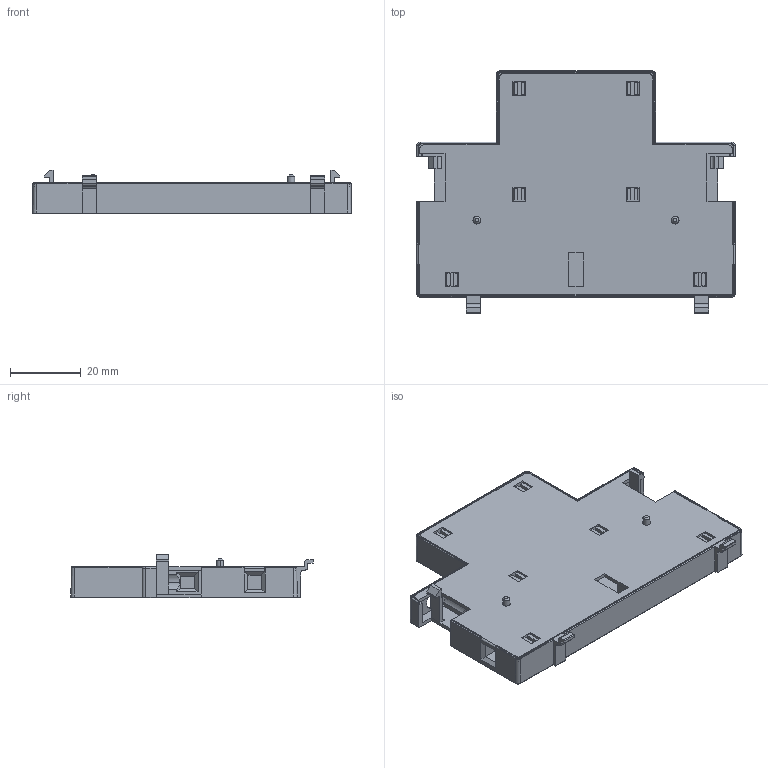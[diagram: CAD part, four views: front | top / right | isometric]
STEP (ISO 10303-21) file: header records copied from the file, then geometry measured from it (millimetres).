
FILE_DESCRIPTION (( 'STEP AP214' ), '1' );
FILE_NAME ('PS-RSI-1100.step', '2011-08-09T06:53:08', ( 'Radek Veselý' ), ( 'Siemens and Partners' ), 'SwSTEP 2.0', 'SolidWorks 2006303', '' );
FILE_SCHEMA (( 'AUTOMOTIVE_DESIGN' ));
Length unit declared in the file: millimetre
Products named in the file (1): PS-RSI-1100
Bounding box: 90 x 68.4 x 12.3 mm (x, y, z)
Volume: 15502.2 mm3; surface area: 30027.6 mm2
Topology: 6 solids, 6 shells, 983 faces, 2683 edges, 1733 vertices
Faces by surface type: plane 666, cylinder 156, bspline 76, cone 53, torus 32
Entity records: 45717 total; most frequent: CARTESIAN_POINT 10661, ORIENTED_EDGE 5350, DIRECTION 4500, EDGE_CURVE 2675, VECTOR 1902, LINE 1902, VERTEX_POINT 1733, AXIS2_PLACEMENT_3D 1299
